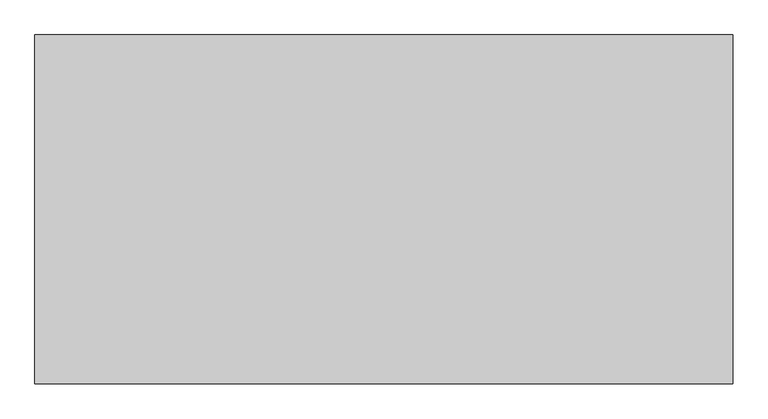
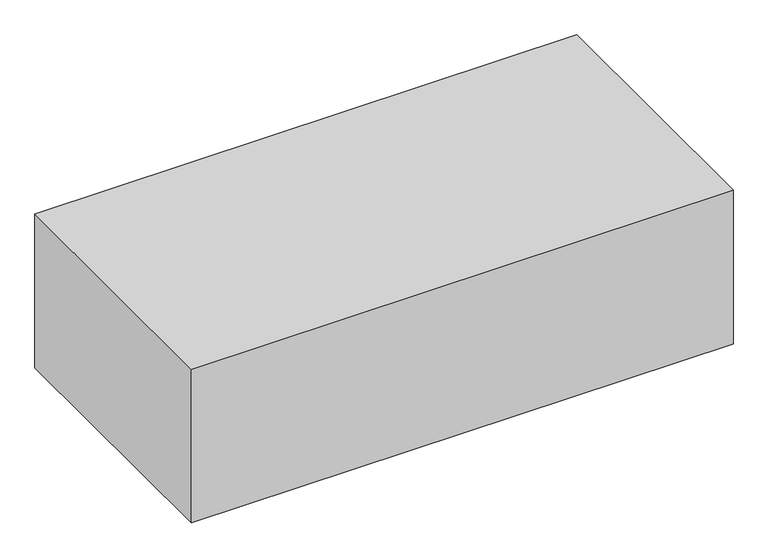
"""IFC4 building model written with IfcOpenShell, lengths in millimetres: proxy geometry, Sickerpackung nach Schlammsammler : Sickerpackung nach Schlammsammler."""

from ifc_helpers import new_model, si_unit, frame, origin, place, context, project, spatial, polyline, outline, extrude, source, transform, mapped, element, save


def generic_models_2e39bced(model_context):
    return source(origin(), model_context, "Body", "SweptSolid", [
        extrude(outline(polyline([(500.0, -250.0), (-500.0, -250.0), (-500.0, 250.0), (500.0, 250.0), (500.0, -250.0)])), frame((0.0, 0.0, -300.0), z_axis=(0.0, 0.0, 1.0), x_axis=(1.0, 0.0, 0.0)), (0.0, 0.0, 1.0), 300.0),
    ])


if __name__ == "__main__":
    model = new_model("IFC4")
    model_context = context("Model", 3, world=origin())
    ifc_project = project(units=[si_unit("LENGTHUNIT", "METRE", prefix="MILLI")], contexts=[model_context])
    site = spatial("IfcSite", under=ifc_project)
    building = spatial("IfcBuilding", under=site)
    placement = place(None, origin())
    generic_models_shape = generic_models_2e39bced(model_context)
    element("IfcBuildingElementProxy", 1, Name="Sickerpackung nach Schlammsammler : Sickerpackung nach Schlammsammler", ObjectType="Sickerpackung nach Schlammsammler : Sickerpackung nach Schlammsammler", at=placement, inside=building, context=model_context, shape_type="MappedRepresentation", body=[
        mapped(generic_models_shape, transform((0.0, 0.0, 0.0), x_axis=(1.0, 0.0, 0.0), y_axis=(0.0, 1.0, 0.0), z_axis=(0.0, 0.0, 1.0))),
    ])
    save(model, "model.ifc")
